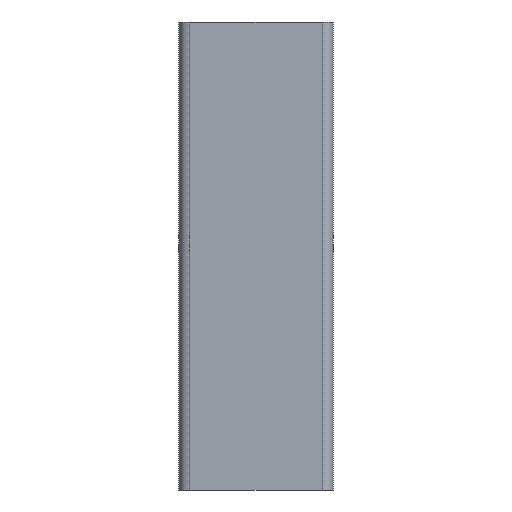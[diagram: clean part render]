
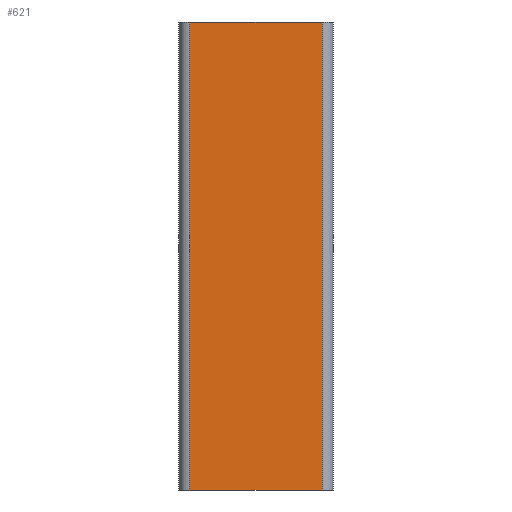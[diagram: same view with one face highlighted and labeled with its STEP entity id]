
A CAD part, left-side view. The second image highlights one B-rep face of the part: STEP entity #621.
In plain terms, the highlighted planar face has unit normal (-1, 0, 0).
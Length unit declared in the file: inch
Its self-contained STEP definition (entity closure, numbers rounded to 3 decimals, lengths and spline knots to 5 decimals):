
#9 = AXIS2_PLACEMENT_3D ( 'NONE', #524, #527, #528 ) ;
#53 = DIRECTION ( 'NONE',  ( 0., -1., 0. ) ) ;
#61 = CARTESIAN_POINT ( 'NONE',  ( -0.49508, 0.84658, -3. ) ) ;
#63 = CARTESIAN_POINT ( 'NONE',  ( -0.49508, 0.84658, 3. ) ) ;
#98 = VERTEX_POINT ( 'NONE', #112 ) ;
#112 = CARTESIAN_POINT ( 'NONE',  ( -0.49508, 0.84658, -3. ) ) ;
#129 = EDGE_CURVE ( 'NONE', #98, #267, #446, .T. ) ;
#152 = EDGE_CURVE ( 'NONE', #281, #98, #435, .T. ) ;
#155 = EDGE_CURVE ( 'NONE', #281, #290, #233, .T. ) ;
#160 = EDGE_CURVE ( 'NONE', #290, #267, #224, .T. ) ;
#187 = FACE_OUTER_BOUND ( 'NONE', #423, .T. ) ;
#224 = LINE ( 'NONE', #240, #225 ) ;
#225 = VECTOR ( 'NONE', #250, 39.37008 ) ;
#232 = VECTOR ( 'NONE', #262, 39.37008 ) ;
#233 = LINE ( 'NONE', #241, #232 ) ;
#237 = CARTESIAN_POINT ( 'NONE',  ( -0.49508, 0.84658, 3. ) ) ;
#240 = CARTESIAN_POINT ( 'NONE',  ( -0.49508, -0.84658, 3. ) ) ;
#241 = CARTESIAN_POINT ( 'NONE',  ( -0.49508, 0.84658, 3. ) ) ;
#247 = DIRECTION ( 'NONE',  ( 0., 0., -1. ) ) ;
#250 = DIRECTION ( 'NONE',  ( 0., 0., -1. ) ) ;
#262 = DIRECTION ( 'NONE',  ( 0., -1., 0. ) ) ;
#267 = VERTEX_POINT ( 'NONE', #567 ) ;
#281 = VERTEX_POINT ( 'NONE', #237 ) ;
#290 = VERTEX_POINT ( 'NONE', #569 ) ;
#350 = VECTOR ( 'NONE', #53, 39.37008 ) ;
#410 = ORIENTED_EDGE ( 'NONE', *, *, #155, .F. ) ;
#423 = EDGE_LOOP ( 'NONE', ( #430, #464, #410, #425 ) ) ;
#425 = ORIENTED_EDGE ( 'NONE', *, *, #152, .T. ) ;
#430 = ORIENTED_EDGE ( 'NONE', *, *, #129, .T. ) ;
#435 = LINE ( 'NONE', #63, #483 ) ;
#446 = LINE ( 'NONE', #61, #350 ) ;
#464 = ORIENTED_EDGE ( 'NONE', *, *, #160, .F. ) ;
#483 = VECTOR ( 'NONE', #247, 39.37008 ) ;
#524 = CARTESIAN_POINT ( 'NONE',  ( -0.49508, 0.84658, 3. ) ) ;
#525 = PLANE ( 'NONE',  #9 ) ;
#527 = DIRECTION ( 'NONE',  ( 1., 0., 0. ) ) ;
#528 = DIRECTION ( 'NONE',  ( 0., 1., 0. ) ) ;
#567 = CARTESIAN_POINT ( 'NONE',  ( -0.49508, -0.84658, -3. ) ) ;
#569 = CARTESIAN_POINT ( 'NONE',  ( -0.49508, -0.84658, 3. ) ) ;
#621 = ADVANCED_FACE ( 'NONE', ( #187 ), #525, .F. ) ;
